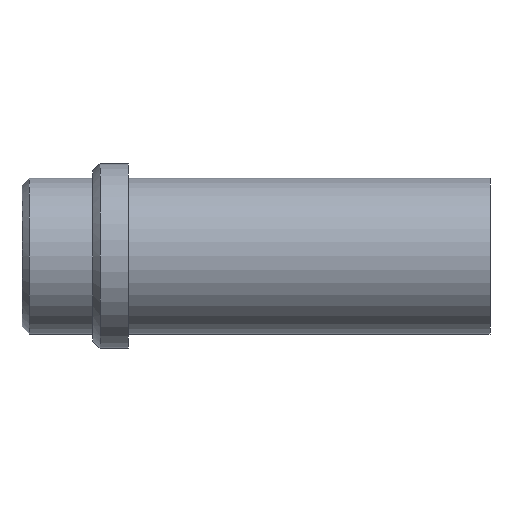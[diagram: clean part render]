
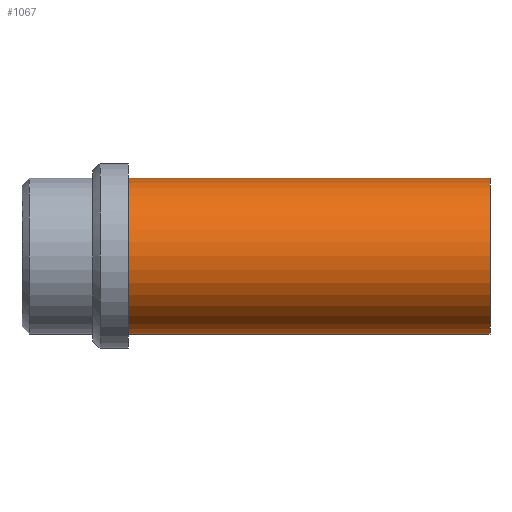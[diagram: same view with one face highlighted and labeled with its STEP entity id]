
A CAD part, front view. The second image highlights one B-rep face of the part: STEP entity #1067.
In plain terms, the highlighted cylindrical face has radius 11 mm (diameter 22 mm), a partial arc.
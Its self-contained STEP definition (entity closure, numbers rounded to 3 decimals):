
#953=CARTESIAN_POINT('Vertex',(0.,0.,-11.)) ;
#958=CARTESIAN_POINT('Axis2P3D Location',(0.,0.,0.)) ;
#962=CARTESIAN_POINT('Vertex',(0.,-11.,0.)) ;
#965=CARTESIAN_POINT('Axis2P3D Location',(0.,0.,0.)) ;
#969=CARTESIAN_POINT('Vertex',(0.,0.,11.)) ;
#995=CARTESIAN_POINT('Vertex',(51.,0.,11.)) ;
#998=CARTESIAN_POINT('Axis2P3D Location',(51.,0.,0.)) ;
#1002=CARTESIAN_POINT('Vertex',(51.,-11.,0.)) ;
#1005=CARTESIAN_POINT('Axis2P3D Location',(51.,0.,0.)) ;
#1009=CARTESIAN_POINT('Vertex',(51.,0.,-11.)) ;
#1035=CARTESIAN_POINT('Line Origine',(51.,0.,11.)) ;
#1040=CARTESIAN_POINT('Line Origine',(51.,0.,-11.)) ;
#1054=CARTESIAN_POINT('Axis2P3D Location',(51.,0.,0.)) ;
#959=DIRECTION('Axis2P3D Direction',(1.,0.,-0.)) ;
#966=DIRECTION('Axis2P3D Direction',(1.,0.,-0.)) ;
#999=DIRECTION('Axis2P3D Direction',(1.,0.,-0.)) ;
#1006=DIRECTION('Axis2P3D Direction',(1.,0.,-0.)) ;
#1036=DIRECTION('Vector Direction',(-1.,0.,0.)) ;
#1041=DIRECTION('Vector Direction',(-1.,0.,0.)) ;
#1055=DIRECTION('Axis2P3D Direction',(-1.,-0.,-0.)) ;
#1056=DIRECTION('Axis2P3D XDirection',(0.,0.,-1.)) ;
#960=AXIS2_PLACEMENT_3D('Circle Axis2P3D',#958,#959,$) ;
#967=AXIS2_PLACEMENT_3D('Circle Axis2P3D',#965,#966,$) ;
#1000=AXIS2_PLACEMENT_3D('Circle Axis2P3D',#998,#999,$) ;
#1007=AXIS2_PLACEMENT_3D('Circle Axis2P3D',#1005,#1006,$) ;
#1057=AXIS2_PLACEMENT_3D('Cylinder Axis2P3D',#1054,#1055,#1056) ;
#1060=ORIENTED_EDGE('',*,*,#1044,.T.) ;
#1061=ORIENTED_EDGE('',*,*,#1011,.F.) ;
#1062=ORIENTED_EDGE('',*,*,#1004,.F.) ;
#1063=ORIENTED_EDGE('',*,*,#1039,.T.) ;
#1064=ORIENTED_EDGE('',*,*,#971,.T.) ;
#1065=ORIENTED_EDGE('',*,*,#964,.T.) ;
#1037=VECTOR('Line Direction',#1036,1.) ;
#1042=VECTOR('Line Direction',#1041,1.) ;
#1067=ADVANCED_FACE('358-16x66',(#1066),#1058,.T.) ;
#961=CIRCLE('generated circle',#960,11.) ;
#968=CIRCLE('generated circle',#967,11.) ;
#1001=CIRCLE('generated circle',#1000,11.) ;
#1008=CIRCLE('generated circle',#1007,11.) ;
#1058=CYLINDRICAL_SURFACE('generated cylinder',#1057,11.) ;
#964=EDGE_CURVE('',#963,#954,#961,.T.) ;
#971=EDGE_CURVE('',#970,#963,#968,.T.) ;
#1004=EDGE_CURVE('',#996,#1003,#1001,.T.) ;
#1011=EDGE_CURVE('',#1003,#1010,#1008,.T.) ;
#1039=EDGE_CURVE('',#996,#970,#1038,.T.) ;
#1044=EDGE_CURVE('',#954,#1010,#1043,.F.) ;
#1059=EDGE_LOOP('',(#1060,#1061,#1062,#1063,#1064,#1065)) ;
#1066=FACE_OUTER_BOUND('',#1059,.T.) ;
#1038=LINE('Line',#1035,#1037) ;
#1043=LINE('Line',#1040,#1042) ;
#954=VERTEX_POINT('',#953) ;
#963=VERTEX_POINT('',#962) ;
#970=VERTEX_POINT('',#969) ;
#996=VERTEX_POINT('',#995) ;
#1003=VERTEX_POINT('',#1002) ;
#1010=VERTEX_POINT('',#1009) ;
